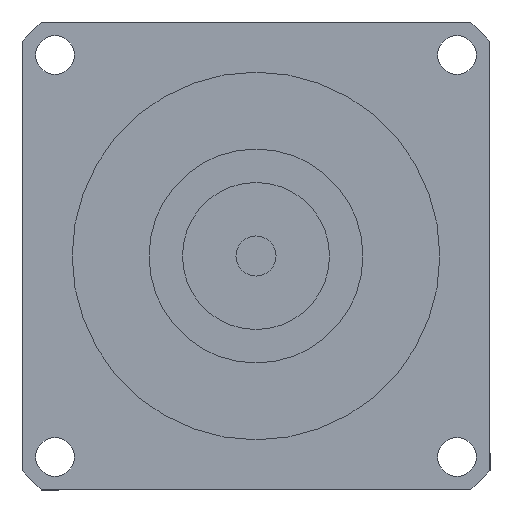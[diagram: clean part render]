
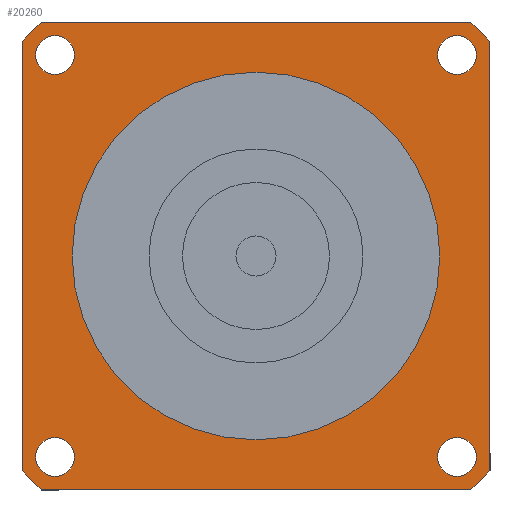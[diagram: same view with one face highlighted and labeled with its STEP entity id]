
A CAD part, left-side view. The second image highlights one B-rep face of the part: STEP entity #20260.
In plain terms, the highlighted planar face has unit normal (-1, 0, 0) as drawn and (0, 0, -1) by its records, which use the part's own axes.
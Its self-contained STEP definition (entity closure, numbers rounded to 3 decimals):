
#11110=CARTESIAN_POINT('',(-35.,32.113,-60.));
#11120=VERTEX_POINT('',#11110);
#11270=CARTESIAN_POINT('',(-35.,-32.113,-60.));
#11280=VERTEX_POINT('',#11270);
#11310=CARTESIAN_POINT('',(-35.,35.,-60.));
#11320=DIRECTION('',(0.,-1.,0.));
#11330=VECTOR('',#11320,1000.);
#11340=LINE('',#11310,#11330);
#11350=EDGE_CURVE('',#11120,#11280,#11340,.T.);
#12930=CARTESIAN_POINT('',(-32.113,-35.,-60.));
#12940=VERTEX_POINT('',#12930);
#12970=CARTESIAN_POINT('',(0.,0.,
-60.));
#12980=DIRECTION('',(0.,0.,1.));
#12990=DIRECTION('',(0.,-1.,0.));
#13000=AXIS2_PLACEMENT_3D('',#12970,#12980,#12990);
#13010=CIRCLE('',#13000,47.5);
#13020=EDGE_CURVE('',#11280,#12940,#13010,.T.);
#17850=CARTESIAN_POINT('',(-32.113,35.,-60.));
#17860=VERTEX_POINT('',#17850);
#17910=CARTESIAN_POINT('',(0.,0.,
-60.));
#17920=DIRECTION('',(0.,0.,1.));
#17930=DIRECTION('',(0.,-1.,0.));
#17940=AXIS2_PLACEMENT_3D('',#17910,#17920,#17930);
#17950=CIRCLE('',#17940,47.5);
#17960=EDGE_CURVE('',#17860,#11120,#17950,.T.);
#18100=CARTESIAN_POINT('',(32.113,35.,-60.));
#18110=VERTEX_POINT('',#18100);
#18160=CARTESIAN_POINT('',(35.,35.,-60.));
#18170=DIRECTION('',(-1.,0.,0.));
#18180=VECTOR('',#18170,1000.);
#18190=LINE('',#18160,#18180);
#18200=EDGE_CURVE('',#18110,#17860,#18190,.T.);
#18310=CARTESIAN_POINT('',(0.,0.,
-60.));
#18320=DIRECTION('',(0.,0.,1.));
#18330=DIRECTION('',(0.,-1.,0.));
#18340=AXIS2_PLACEMENT_3D('',#18310,#18320,#18330);
#18350=CIRCLE('',#18340,47.5);
#18360=CARTESIAN_POINT('',(35.,32.113,-60.));
#18370=VERTEX_POINT('',#18360);
#18380=EDGE_CURVE('',#18370,#18110,#18350,.T.);
#18590=CARTESIAN_POINT('',(35.,-32.113,-60.));
#18600=VERTEX_POINT('',#18590);
#18650=CARTESIAN_POINT('',(35.,-35.,-60.));
#18660=DIRECTION('',(0.,1.,0.));
#18670=VECTOR('',#18660,1000.);
#18680=LINE('',#18650,#18670);
#18690=EDGE_CURVE('',#18600,#18370,#18680,.T.);
#18830=CARTESIAN_POINT('',(32.113,-35.,-60.));
#18840=VERTEX_POINT('',#18830);
#18890=CARTESIAN_POINT('',(0.,0.,
-60.));
#18900=DIRECTION('',(0.,0.,1.));
#18910=DIRECTION('',(0.,-1.,0.));
#18920=AXIS2_PLACEMENT_3D('',#18890,#18900,#18910);
#18930=CIRCLE('',#18920,47.5);
#18940=EDGE_CURVE('',#18840,#18600,#18930,.T.);
#19070=CARTESIAN_POINT('',(-35.,-35.,-60.));
#19080=DIRECTION('',(1.,0.,0.));
#19090=VECTOR('',#19080,1000.);
#19100=LINE('',#19070,#19090);
#19110=EDGE_CURVE('',#12940,#18840,#19100,.T.);
#19160=CARTESIAN_POINT('',(-35.,35.,-60.));
#19170=DIRECTION('',(0.,0.,1.));
#19180=DIRECTION('',(-1.,0.,0.));
#19190=AXIS2_PLACEMENT_3D('',#19160,#19170,#19180);
#19200=PLANE('',#19190);
#19210=CARTESIAN_POINT('',(30.052,-30.052,-60.));
#19220=DIRECTION('',(0.,0.,-1.));
#19230=DIRECTION('',(1.,0.,0.));
#19240=AXIS2_PLACEMENT_3D('',#19210,#19220,#19230);
#19250=CIRCLE('',#19240,2.9);
#19260=CARTESIAN_POINT('',(32.952,-30.052,-60.));
#19270=VERTEX_POINT('',#19260);
#19280=CARTESIAN_POINT('',(30.052,-32.952,-60.));
#19290=VERTEX_POINT('',#19280);
#19300=EDGE_CURVE('',#19270,#19290,#19250,.T.);
#19310=ORIENTED_EDGE('',*,*,#19300,.F.);
#19320=CARTESIAN_POINT('',(30.052,-27.152,-60.));
#19330=VERTEX_POINT('',#19320);
#19340=EDGE_CURVE('',#19290,#19330,#19250,.T.);
#19350=ORIENTED_EDGE('',*,*,#19340,.F.);
#19360=EDGE_CURVE('',#19330,#19270,#19250,.T.);
#19370=ORIENTED_EDGE('',*,*,#19360,.F.);
#19380=EDGE_LOOP('',(#19370,#19350,#19310));
#19390=FACE_BOUND('',#19380,.T.);
#19400=CARTESIAN_POINT('',(30.052,30.052,-60.));
#19410=DIRECTION('',(0.,0.,-1.));
#19420=DIRECTION('',(0.,1.,0.));
#19430=AXIS2_PLACEMENT_3D('',#19400,#19410,#19420);
#19440=CIRCLE('',#19430,2.9);
#19450=CARTESIAN_POINT('',(30.052,32.952,-60.));
#19460=VERTEX_POINT('',#19450);
#19470=CARTESIAN_POINT('',(32.952,30.052,-60.));
#19480=VERTEX_POINT('',#19470);
#19490=EDGE_CURVE('',#19460,#19480,#19440,.T.);
#19500=ORIENTED_EDGE('',*,*,#19490,.F.);
#19510=CARTESIAN_POINT('',(27.152,30.052,-60.));
#19520=VERTEX_POINT('',#19510);
#19530=EDGE_CURVE('',#19480,#19520,#19440,.T.);
#19540=ORIENTED_EDGE('',*,*,#19530,.F.);
#19550=EDGE_CURVE('',#19520,#19460,#19440,.T.);
#19560=ORIENTED_EDGE('',*,*,#19550,.F.);
#19570=EDGE_LOOP('',(#19560,#19540,#19500));
#19580=FACE_BOUND('',#19570,.T.);
#19590=CARTESIAN_POINT('',(-30.052,30.052,-60.));
#19600=DIRECTION('',(0.,0.,-1.));
#19610=DIRECTION('',(-1.,0.,0.));
#19620=AXIS2_PLACEMENT_3D('',#19590,#19600,#19610);
#19630=CIRCLE('',#19620,2.9);
#19640=CARTESIAN_POINT('',(-32.952,30.052,-60.));
#19650=VERTEX_POINT('',#19640);
#19660=CARTESIAN_POINT('',(-30.052,32.952,-60.));
#19670=VERTEX_POINT('',#19660);
#19680=EDGE_CURVE('',#19650,#19670,#19630,.T.);
#19690=ORIENTED_EDGE('',*,*,#19680,.F.);
#19700=CARTESIAN_POINT('',(-30.052,27.152,-60.));
#19710=VERTEX_POINT('',#19700);
#19720=EDGE_CURVE('',#19670,#19710,#19630,.T.);
#19730=ORIENTED_EDGE('',*,*,#19720,.F.);
#19740=EDGE_CURVE('',#19710,#19650,#19630,.T.);
#19750=ORIENTED_EDGE('',*,*,#19740,.F.);
#19760=EDGE_LOOP('',(#19750,#19730,#19690));
#19770=FACE_BOUND('',#19760,.T.);
#19780=CARTESIAN_POINT('',(-30.052,-30.052,-60.));
#19790=DIRECTION('',(0.,0.,-1.));
#19800=DIRECTION('',(0.,-1.,0.));
#19810=AXIS2_PLACEMENT_3D('',#19780,#19790,#19800);
#19820=CIRCLE('',#19810,2.9);
#19830=CARTESIAN_POINT('',(-30.052,-32.952,-60.));
#19840=VERTEX_POINT('',#19830);
#19850=CARTESIAN_POINT('',(-32.952,-30.052,-60.));
#19860=VERTEX_POINT('',#19850);
#19870=EDGE_CURVE('',#19840,#19860,#19820,.T.);
#19880=ORIENTED_EDGE('',*,*,#19870,.F.);
#19890=CARTESIAN_POINT('',(-27.152,-30.052,-60.));
#19900=VERTEX_POINT('',#19890);
#19910=EDGE_CURVE('',#19860,#19900,#19820,.T.);
#19920=ORIENTED_EDGE('',*,*,#19910,.F.);
#19930=EDGE_CURVE('',#19900,#19840,#19820,.T.);
#19940=ORIENTED_EDGE('',*,*,#19930,.F.);
#19950=EDGE_LOOP('',(#19940,#19920,#19880));
#19960=FACE_BOUND('',#19950,.T.);
#19970=ORIENTED_EDGE('',*,*,#13020,.F.);
#19980=ORIENTED_EDGE('',*,*,#19110,.F.);
#19990=ORIENTED_EDGE('',*,*,#18940,.F.);
#20000=ORIENTED_EDGE('',*,*,#18690,.F.);
#20010=ORIENTED_EDGE('',*,*,#18380,.F.);
#20020=ORIENTED_EDGE('',*,*,#18200,.F.);
#20030=ORIENTED_EDGE('',*,*,#17960,.F.);
#20040=ORIENTED_EDGE('',*,*,#11350,.F.);
#20050=EDGE_LOOP('',(#20040,#20030,#20020,#20010,#20000,#19990,#19980,
#19970));
#20060=FACE_OUTER_BOUND('',#20050,.T.);
#20070=CARTESIAN_POINT('',(0.,0.,
-60.));
#20080=DIRECTION('',(0.,0.,1.));
#20090=DIRECTION('',(0.,-1.,0.));
#20100=AXIS2_PLACEMENT_3D('',#20070,#20080,#20090);
#20110=CIRCLE('',#20100,27.5);
#20120=CARTESIAN_POINT('',(27.5,0.,-60.));
#20130=VERTEX_POINT('',#20120);
#20140=CARTESIAN_POINT('',(-27.5,0.,-60.));
#20150=VERTEX_POINT('',#20140);
#20160=EDGE_CURVE('',#20130,#20150,#20110,.T.);
#20170=ORIENTED_EDGE('',*,*,#20160,.T.);
#20180=CARTESIAN_POINT('',(0.,-27.5,-60.));
#20190=VERTEX_POINT('',#20180);
#20200=EDGE_CURVE('',#20190,#20130,#20110,.T.);
#20210=ORIENTED_EDGE('',*,*,#20200,.T.);
#20220=EDGE_CURVE('',#20150,#20190,#20110,.T.);
#20230=ORIENTED_EDGE('',*,*,#20220,.T.);
#20240=EDGE_LOOP('',(#20230,#20210,#20170));
#20250=FACE_BOUND('',#20240,.T.);
#20260=ADVANCED_FACE('',(#19390,#19580,#19770,#19960,#20060,#20250),
#19200,.F.);
